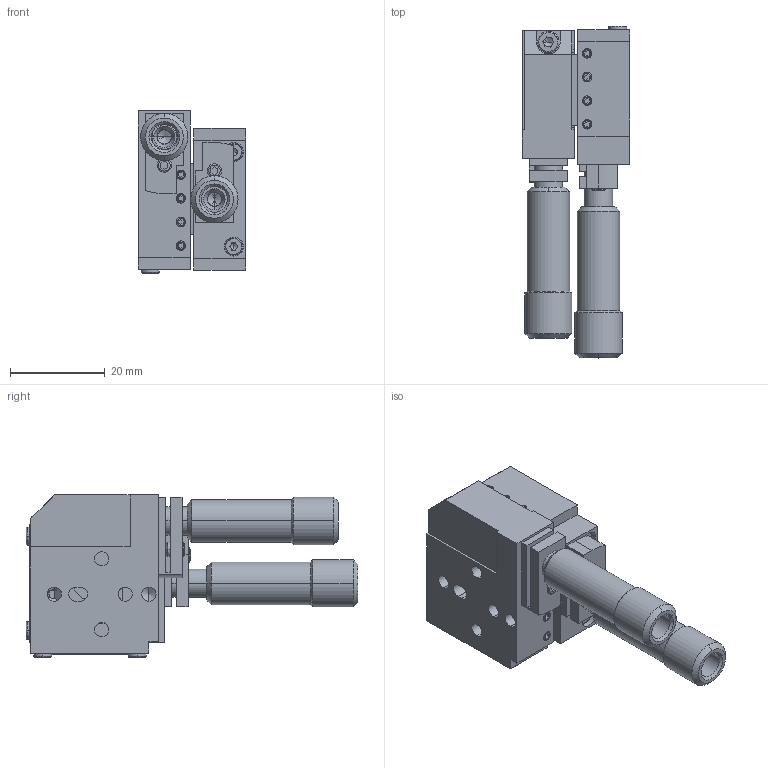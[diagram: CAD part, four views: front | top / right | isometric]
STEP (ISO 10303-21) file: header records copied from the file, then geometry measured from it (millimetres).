
FILE_DESCRIPTION (( 'STEP AP203' ), '1' );
FILE_NAME ('7T229TL.STEP', '2012-08-02T08:09:22', ( 'Darius' ), ( '' ), 'SwSTEP 2.0', 'SolidWorks 2012', '' );
FILE_SCHEMA (( 'CONFIG_CONTROL_DESIGN' ));
Length unit declared in the file: millimetre
Products named in the file (1): 7T229TL
Bounding box: 22.7 x 70.22 x 34.3 mm (x, y, z)
Volume: 17989 mm3; surface area: 15126 mm2
Topology: 2 solids, 12 shells, 897 faces, 2269 edges, 1434 vertices
Faces by surface type: plane 457, cylinder 239, cone 169, bspline 32
Entity records: 37117 total; most frequent: CARTESIAN_POINT 15140, DIRECTION 4721, ORIENTED_EDGE 4450, EDGE_CURVE 2225, AXIS2_PLACEMENT_3D 1708, VERTEX_POINT 1434, VECTOR 1305, LINE 1305
